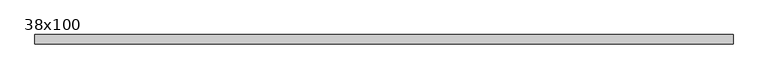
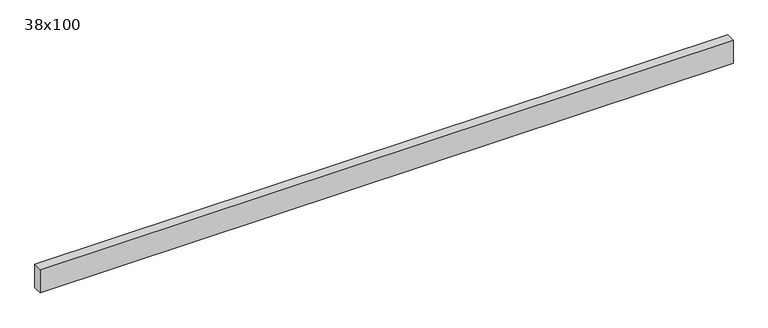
"""IFC4 building model written with IfcOpenShell, lengths in millimetres: beam geometry, Poutre - Bois de construction de dimensions courantes : 38x100."""

from ifc_helpers import new_model, si_unit, frame, origin, place, context, project, spatial, polyline, outline, extrude, source, transform, mapped, element, save


def beam_38x100_b1a4e906(model_context):
    return source(origin(), model_context, "Body", "SweptSolid", [
        extrude(outline(polyline([(1333.5, 19.05), (1333.5, -19.05), (-1493.5, -19.05), (-1493.5, 19.05), (1333.5, 19.05)])), frame((0.0, 0.0, -50.0), z_axis=(0.0, 0.0, 1.0), x_axis=(1.0, 0.0, 0.0)), (0.0, 0.0, 1.0), 100.0),
    ])


if __name__ == "__main__":
    model = new_model("IFC4")
    model_context = context("Model", 3, world=origin())
    ifc_project = project(units=[si_unit("LENGTHUNIT", "METRE", prefix="MILLI")], contexts=[model_context])
    site = spatial("IfcSite", under=ifc_project)
    building = spatial("IfcBuilding", under=site)
    placement = place(None, origin())
    beam_38x100_shape = beam_38x100_b1a4e906(model_context)
    element("IfcBeam", 1, ObjectType="Poutre - Bois de construction de dimensions courantes : 38x100", at=placement, inside=building, context=model_context, shape_type="MappedRepresentation", body=[
        mapped(beam_38x100_shape, transform((0.0, 0.0, 0.0), x_axis=(1.0, 0.0, 0.0), y_axis=(0.0, 1.0, 0.0), z_axis=(0.0, 0.0, 1.0))),
    ])
    save(model, "model.ifc")
